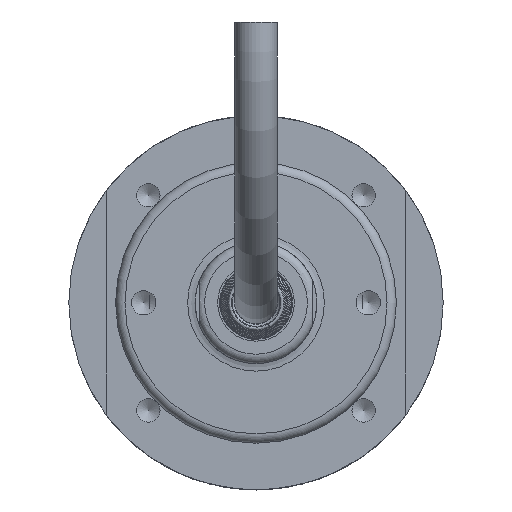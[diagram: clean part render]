
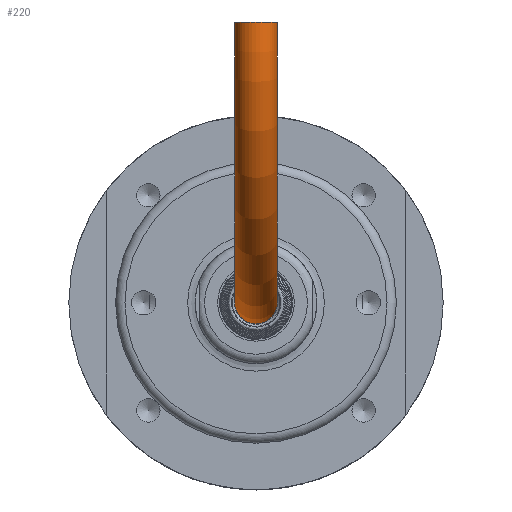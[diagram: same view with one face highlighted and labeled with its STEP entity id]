
A CAD part, front view. The second image highlights one B-rep face of the part: STEP entity #220.
In plain terms, the highlighted toroidal (fillet/blend) face has major radius 30 mm and minor radius 2.25 mm.
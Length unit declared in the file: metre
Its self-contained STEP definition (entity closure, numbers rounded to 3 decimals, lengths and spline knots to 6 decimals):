
#220 = ADVANCED_FACE( '', ( #454, #455 ), #456, .T. );
#454 = FACE_OUTER_BOUND( '', #1403, .T. );
#455 = FACE_OUTER_BOUND( '', #1404, .T. );
#456 = TOROIDAL_SURFACE( '', #1405, 0.03, 0.00225 );
#1403 = EDGE_LOOP( '', ( #11619 ) );
#1404 = EDGE_LOOP( '', ( #11620 ) );
#1405 = AXIS2_PLACEMENT_3D( '', #11621, #11622, #11623 );
#11619 = ORIENTED_EDGE( '', *, *, #12094, .T. );
#11620 = ORIENTED_EDGE( '', *, *, #12095, .F. );
#11621 = CARTESIAN_POINT( '', ( 0., -0.043, 0.03 ) );
#11622 = DIRECTION( '', ( -1., 0., 0. ) );
#11623 = DIRECTION( '', ( 0., 1., 0. ) );
#12094 = EDGE_CURVE( '', #12413, #12413, #12414, .T. );
#12095 = EDGE_CURVE( '', #12415, #12415, #12416, .T. );
#12413 = VERTEX_POINT( '', #13738 );
#12414 = CIRCLE( '', #13739, 0.00225 );
#12415 = VERTEX_POINT( '', #13740 );
#12416 = CIRCLE( '', #13741, 0.00225 );
#13738 = CARTESIAN_POINT( '', ( 0.00225, -0.043, 0. ) );
#13739 = AXIS2_PLACEMENT_3D( '', #17508, #17509, #17510 );
#13740 = CARTESIAN_POINT( '', ( 0., -0.07075, 0.03 ) );
#13741 = AXIS2_PLACEMENT_3D( '', #17511, #17512, #17513 );
#17508 = CARTESIAN_POINT( '', ( 0., -0.043, 0. ) );
#17509 = DIRECTION( '', ( 0., -1., 0. ) );
#17510 = DIRECTION( '', ( 1., 0., 0. ) );
#17511 = CARTESIAN_POINT( '', ( 0., -0.073, 0.03 ) );
#17512 = DIRECTION( '', ( 0., 0., 1. ) );
#17513 = DIRECTION( '', ( 0., 1., 0. ) );
